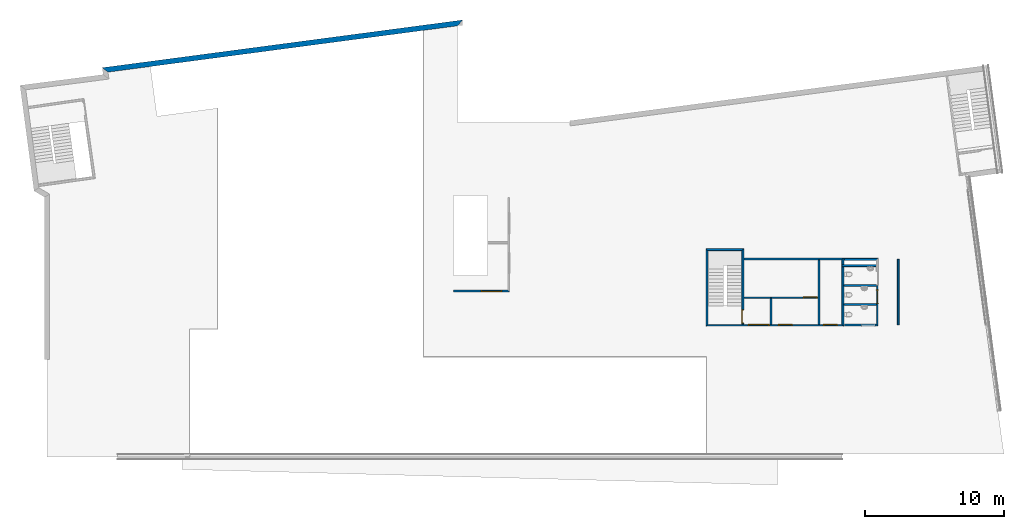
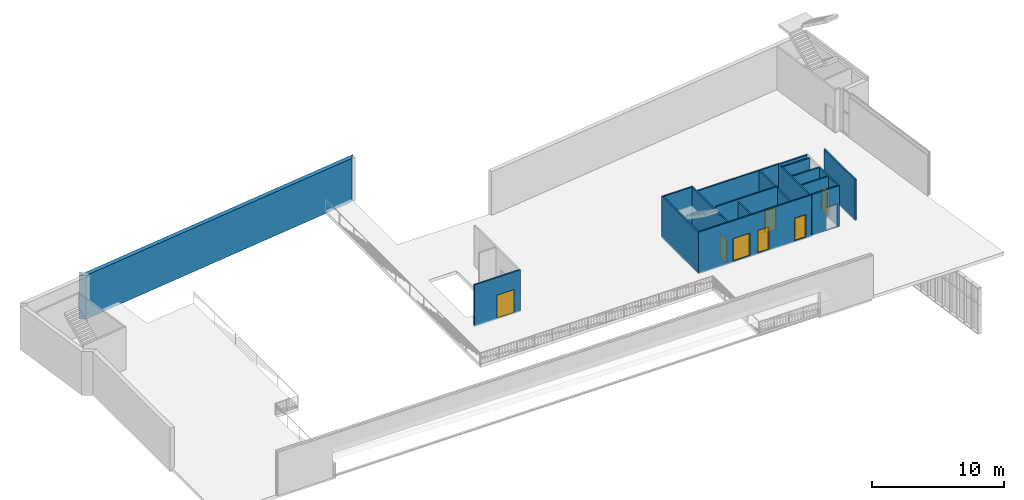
# One storey, part 8 of 17: 18 walls, 7 doors, 8 openings.
"""IFC2X3 building model written with IfcOpenShell, lengths in metres."""

from ifc_helpers import new_model, entity, si_unit, converted_unit, money_unit, direction, frame, origin_with_axes, origin_2d_with_axis, place, context, subcontext, project, spatial, polyline, rectangle, outline, extrude, faceted_brep, source, transform, mapped, material, material_list, layer, layer_set, layer_usage, type_object, element, fill, save


model = new_model("IFC2X3")

# Units and contexts
model_context = context("Model", 3, precision=1e-05, world=origin_with_axes(), true_north=direction((0.0, 1.0)))
body_context = subcontext(model_context, "Body", "Model", "MODEL_VIEW")
ifc_project = project(units=[si_unit("LENGTHUNIT", "METRE"), si_unit("AREAUNIT", "SQUARE_METRE"), si_unit("VOLUMEUNIT", "CUBIC_METRE"), converted_unit("PLANEANGLEUNIT", "DEGREE", entity("IfcPlaneAngleMeasure", 0.0174532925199), si_unit("PLANEANGLEUNIT", "RADIAN"), dimensions=[0, 0, 0, 0, 0, 0, 0]), si_unit("SOLIDANGLEUNIT", "STERADIAN"), money_unit("EUR"), converted_unit("TIMEUNIT", "Year", entity("IfcTimeMeasure", 31556926.0), si_unit("TIMEUNIT", "SECOND"), dimensions=[0, 0, 0, 0, 0, 0, 0]), si_unit("MASSUNIT", "GRAM"), si_unit("THERMODYNAMICTEMPERATUREUNIT", "DEGREE_CELSIUS"), si_unit("LUMINOUSINTENSITYUNIT", "LUMEN")], contexts=[model_context])

# Site, building, storey
site_placement = place(None, origin_with_axes())
site = spatial("IfcSite", under=ifc_project, at=site_placement, Name="Undefined", CompositionType="ELEMENT")
building_placement = place(site_placement, origin_with_axes())
building = spatial("IfcBuilding", under=site, at=building_placement, Name="Undefined", CompositionType="ELEMENT")
storey_placement = place(building_placement, frame((0.0, 0.0, 9.425), z_axis=(0.0, 0.0, 1.0), x_axis=(1.0, 0.0, 0.0)))
storey = spatial("IfcBuildingStorey", under=building, at=storey_placement, Name="Mezzannine", CompositionType="ELEMENT", Elevation=9.425)

# Wall
ifc_material_1 = material(Name="Finition int - Enduit pl\x89tre")
ifc_layer_1 = layer(ifc_material_1, 0.015, ventilated="UNKNOWN")
ifc_material_2 = material(Name="Struct. - Parpaing b\x8eton")
ifc_layer_2 = layer(ifc_material_2, 0.1, ventilated="UNKNOWN")
ifc_layer_3 = layer(ifc_material_1, 0.015, ventilated="UNKNOWN")
ifc_layer_set_1 = layer_set([ifc_layer_1, ifc_layer_2, ifc_layer_3], Name="0.0-Cloison: parpaing + pl\x89tre 2 faces copie")
ifc_layer_usage_1 = layer_usage(ifc_layer_set_1, "AXIS2", "NEGATIVE", 0.0)
wall_type_1 = type_object("IfcWallType", Name="0.0-Cloison: parpaing + pl\x89tre 2 faces copie 130", PredefinedType="NOTDEFINED")
wall_1_placement = place(storey_placement, frame((56.835, 9.3149999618, -0.12), z_axis=(0.0, 0.0, 1.0), x_axis=(0.0, 1.0, 0.0)))
element("IfcWallStandardCase", 1, at=wall_1_placement, inside=storey, type_object=wall_type_1, material=ifc_layer_usage_1, Name="Wall_Int_07", context=body_context, shape_type="SweptSolid", body=[
    extrude(outline(polyline([(-0.13, -0.13), (4.7500000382, -0.13), (4.6200000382, 0.0), (0.0, 0.0), (-0.13, -0.13)])), origin_with_axes(), (0.0, 0.0, 1.0), 3.845),
])

# Wall, openings, doors
ifc_layer_usage_2 = layer_usage(ifc_layer_set_1, "AXIS2", "POSITIVE", 0.0)
wall_2_placement = place(storey_placement, frame((56.835, 9.3149999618, -0.12), z_axis=(0.0, 0.0, 1.0), x_axis=(-1.0, 0.0, 0.0)))
wall_2 = element("IfcWallStandardCase", 2, at=wall_2_placement, inside=storey, type_object=wall_type_1, material=ifc_layer_usage_2, Name="Wall_Int_02", context=body_context, shape_type="SweptSolid", body=[
    extrude(outline(polyline([(0.0, 0.0), (9.62, 0.0), (9.75, 0.13), (-0.13, 0.13), (0.0, 0.0)])), origin_with_axes(), (0.0, 0.0, 1.0), 3.845),
])
opening_1_placement = place(wall_2_placement, frame((5.97548555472, 0.0, 0.12), z_axis=(0.0, 0.0, 1.0), x_axis=(1.0, 0.0, 0.0)))
opening_1 = element("IfcOpeningElement", 3, at=opening_1_placement, cuts=wall_2, Name="DOOR", context=body_context, shape_type="SweptSolid", body=[
    extrude(rectangle(XDim=1.5, YDim=2.1, at=origin_2d_with_axis()), frame((0.0, -0.13, 1.05), z_axis=(0.0, 1.0, 0.0), x_axis=(1.0, 0.0, 0.0)), (0.0, 0.0, 1.0), 0.13),
    extrude(rectangle(XDim=1.5, YDim=2.1, at=origin_2d_with_axis()), frame((0.0, 0.13, 1.05), z_axis=(0.0, -1.0, 0.0), x_axis=(1.0, 0.0, 0.0)), (0.0, 0.0, 1.0), 0.13),
])
opening_2_placement = place(wall_2_placement, frame((4.05960224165, 0.0, 0.12), z_axis=(0.0, 0.0, 1.0), x_axis=(1.0, 0.0, 0.0)))
opening_2 = element("IfcOpeningElement", 4, at=opening_2_placement, cuts=wall_2, Name="DOOR_1000", context=body_context, shape_type="SweptSolid", body=[
    extrude(rectangle(XDim=1.0, YDim=2.1, at=origin_2d_with_axis()), frame((0.0, -0.13, 1.05), z_axis=(0.0, 1.0, 0.0), x_axis=(1.0, 0.0, 0.0)), (0.0, 0.0, 1.0), 0.13),
    extrude(rectangle(XDim=1.0, YDim=2.1, at=origin_2d_with_axis()), frame((0.0, 0.13, 1.05), z_axis=(0.0, -1.0, 0.0), x_axis=(1.0, 0.0, 0.0)), (0.0, 0.0, 1.0), 0.13),
])
opening_3_placement = place(wall_2_placement, frame((0.834117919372, 0.0, 0.12), z_axis=(0.0, 0.0, 1.0), x_axis=(1.0, 0.0, 0.0)))
opening_3 = element("IfcOpeningElement", 5, at=opening_3_placement, cuts=wall_2, Name="DOOR_1000", context=body_context, shape_type="SweptSolid", body=[
    extrude(rectangle(XDim=1.0, YDim=2.1, at=origin_2d_with_axis()), frame((0.0, -0.13, 1.05), z_axis=(0.0, 1.0, 0.0), x_axis=(1.0, 0.0, 0.0)), (0.0, 0.0, 1.0), 0.13),
    extrude(rectangle(XDim=1.0, YDim=2.1, at=origin_2d_with_axis()), frame((0.0, 0.13, 1.05), z_axis=(0.0, -1.0, 0.0), x_axis=(1.0, 0.0, 0.0)), (0.0, 0.0, 1.0), 0.13),
])
ifc_material_3 = material(Name="Background Fill-International")
ifc_material_4 = material(Name="Air Space")
ifc_material_list_1 = material_list([ifc_material_3, ifc_material_4])
door_style_1 = type_object("IfcDoorStyle", Name="IFC Porte - Simple battant", ConstructionType="NOTDEFINED", OperationType="SINGLE_SWING_LEFT", ParameterTakesPrecedence=True, Sizeable=False)
shared_shape_1 = source(origin_with_axes(), body_context, "Body", "Brep", [
    faceted_brep([(0.5, 0.0, 0.0), (0.5, -0.1, 0.0), (0.45, -0.1, 0.0), (0.45, 0.0, 0.0), (0.5, 0.0, 2.1), (0.5, -0.1, 2.1), (-0.5, -0.1, 2.1), (-0.5, -0.1, 0.0), (-0.45, -0.1, 0.0), (-0.45, -0.1, 2.05), (0.45, -0.1, 2.05), (0.45, 0.0, 2.05), (-0.45, 0.0, 2.05), (-0.45, 0.0, 0.0), (-0.5, 0.0, 0.0), (-0.5, 0.0, 2.1)], [[[0, 1, 2, 3]], [[4, 5, 1, 0]], [[1, 5, 6, 7, 8, 9, 10, 2]], [[3, 2, 10, 11]], [[0, 3, 11, 12, 13, 14, 15, 4]], [[15, 6, 5, 4]], [[14, 7, 6, 15]], [[13, 8, 7, 14]], [[12, 9, 8, 13]], [[11, 10, 9, 12]]]),
    faceted_brep([(-0.45, 0.0, 0.0), (-0.45, -0.04, 0.0), (-0.45, -0.04, 2.05), (-0.45, 0.0, 2.05), (0.45, 0.0, 0.0), (0.45, -0.04, 0.0), (0.45, -0.04, 2.05), (0.45, 0.0, 2.05)], [[[0, 1, 2, 3]], [[4, 5, 1, 0]], [[1, 5, 6, 2]], [[3, 2, 6, 7]], [[0, 3, 7, 4]], [[7, 6, 5, 4]]]),
])
door_1_placement = place(opening_2_placement, frame((0.5, 0.0, 0.0), z_axis=(0.0, 0.0, 1.0), x_axis=(-1.0, 0.0, 0.0)))
door_1 = element("IfcDoor", 6, at=door_1_placement, inside=storey, type_object=door_style_1, material=ifc_material_list_1, Name="DOOR_1000", ObjectType="DOOR", OverallHeight=2.1, OverallWidth=1.0, context=body_context, shape_type="MappedRepresentation", body=[
    mapped(shared_shape_1, transform((0.5, 0.0, 0.0))),
])
fill(opening_2, door_1)
door_2_placement = place(opening_3_placement, frame((0.5, 0.0, 0.0), z_axis=(0.0, 0.0, 1.0), x_axis=(-1.0, 0.0, 0.0)))
door_2 = element("IfcDoor", 7, at=door_2_placement, inside=storey, type_object=door_style_1, material=ifc_material_list_1, Name="DOOR_1000", ObjectType="DOOR", OverallHeight=2.1, OverallWidth=1.0, context=body_context, shape_type="MappedRepresentation", body=[
    mapped(shared_shape_1, transform((0.5, 0.0, 0.0))),
])
fill(opening_3, door_2)
door_style_2 = type_object("IfcDoorStyle", Name="IFC Porte double - Simple battant", ConstructionType="ALUMINIUM", OperationType="DOUBLE_DOOR_SINGLE_SWING", ParameterTakesPrecedence=True, Sizeable=False)
shared_shape_2 = source(origin_with_axes(), body_context, "Body", "Brep", [
    faceted_brep([(0.75, 0.0, 0.0), (0.75, -0.1, 0.0), (0.7, -0.1, 0.0), (0.7, 0.0, 0.0), (0.75, 0.0, 2.1), (0.75, -0.1, 2.1), (-0.75, -0.1, 2.1), (-0.75, -0.1, 0.0), (-0.7, -0.1, 0.0), (-0.7, -0.1, 2.05), (0.7, -0.1, 2.05), (0.7, 0.0, 2.05), (-0.7, 0.0, 2.05), (-0.7, 0.0, 0.0), (-0.75, 0.0, 0.0), (-0.75, 0.0, 2.1)], [[[0, 1, 2, 3]], [[4, 5, 1, 0]], [[1, 5, 6, 7, 8, 9, 10, 2]], [[3, 2, 10, 11]], [[0, 3, 11, 12, 13, 14, 15, 4]], [[15, 6, 5, 4]], [[14, 7, 6, 15]], [[13, 8, 7, 14]], [[12, 9, 8, 13]], [[11, 10, 9, 12]]]),
    faceted_brep([(-0.7, 0.0, 0.0), (-0.7, -0.04, 0.0), (-0.7, -0.04, 2.05), (-0.7, 0.0, 2.05), (0.42, 0.0, 0.0), (0.42, -0.04, 0.0), (0.42, -0.04, 2.05), (0.42, 0.0, 2.05)], [[[0, 1, 2, 3]], [[4, 5, 1, 0]], [[1, 5, 6, 2]], [[3, 2, 6, 7]], [[0, 3, 7, 4]], [[7, 6, 5, 4]]]),
    faceted_brep([(0.7, 0.0, 0.0), (0.7, -0.04, 0.0), (0.42, -0.04, 0.0), (0.42, 0.0, 0.0), (0.7, 0.0, 2.05), (0.7, -0.04, 2.05), (0.42, -0.04, 2.05), (0.42, 0.0, 2.05)], [[[0, 1, 2, 3]], [[4, 5, 1, 0]], [[1, 5, 6, 2]], [[3, 2, 6, 7]], [[0, 3, 7, 4]], [[7, 6, 5, 4]]]),
])
door_3_placement = place(opening_1_placement, frame((0.75, 0.0, 0.0), z_axis=(0.0, 0.0, 1.0), x_axis=(-1.0, 0.0, 0.0)))
door_3 = element("IfcDoor", 8, at=door_3_placement, inside=storey, type_object=door_style_2, material=ifc_material_list_1, Name="DOOR", ObjectType="DOOR", OverallHeight=2.1, OverallWidth=1.5, context=body_context, shape_type="MappedRepresentation", body=[
    mapped(shared_shape_2, transform((0.75, 0.0, 0.0))),
])
fill(opening_1, door_3)

# Wall, opening, door
ifc_layer_usage_3 = layer_usage(ifc_layer_set_1, "AXIS2", "NEGATIVE", 0.0)
wall_3_placement = place(storey_placement, frame((32.9987356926, 11.6449226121, -0.12), z_axis=(0.0, 0.0, 1.0), x_axis=(-1.0, 0.0, 0.0)))
wall_3 = element("IfcWallStandardCase", 9, at=wall_3_placement, inside=storey, type_object=wall_type_1, material=ifc_layer_usage_3, Name="Wall_Int_02", ObjectType="WALL", context=body_context, shape_type="SweptSolid", body=[
    extrude(outline(polyline([(0.13, -0.13), (4.02497206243, -0.13), (4.02497206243, 0.0), (0.0, 0.0), (0.13, -0.13)])), origin_with_axes(), (0.0, 0.0, 1.0), 3.845),
])
opening_4_placement = place(wall_3_placement, frame((1.30127249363, 0.0, 0.12), z_axis=(0.0, 0.0, 1.0), x_axis=(1.0, 0.0, 0.0)))
opening_4 = element("IfcOpeningElement", 10, at=opening_4_placement, cuts=wall_3, Name="DOOR", context=body_context, shape_type="SweptSolid", body=[
    extrude(rectangle(XDim=1.5, YDim=2.1, at=origin_2d_with_axis()), frame((0.0, 0.13, 1.05), z_axis=(0.0, -1.0, 0.0), x_axis=(1.0, 0.0, 0.0)), (0.0, 0.0, 1.0), 0.13),
    extrude(rectangle(XDim=1.5, YDim=2.1, at=origin_2d_with_axis()), frame((0.0, -0.13, 1.05), z_axis=(0.0, 1.0, 0.0), x_axis=(1.0, 0.0, 0.0)), (0.0, 0.0, 1.0), 0.13),
])
door_style_3 = type_object("IfcDoorStyle", Name="IFC Porte double - Simple battant", ConstructionType="ALUMINIUM", OperationType="DOUBLE_DOOR_SINGLE_SWING", ParameterTakesPrecedence=True, Sizeable=False)
shared_shape_3 = source(origin_with_axes(), body_context, "Body", "Brep", [
    faceted_brep([(-0.75, 0.0, 0.0), (-0.7, 0.0, 0.0), (-0.7, -0.1, 0.0), (-0.75, -0.1, 0.0), (-0.75, 0.0, 2.1), (0.75, 0.0, 2.1), (0.75, 0.0, 0.0), (0.7, 0.0, 0.0), (0.7, 0.0, 2.05), (-0.7, 0.0, 2.05), (-0.7, -0.1, 2.05), (0.7, -0.1, 2.05), (0.7, -0.1, 0.0), (0.75, -0.1, 0.0), (0.75, -0.1, 2.1), (-0.75, -0.1, 2.1)], [[[0, 1, 2, 3]], [[0, 4, 5, 6, 7, 8, 9, 1]], [[1, 9, 10, 2]], [[3, 2, 10, 11, 12, 13, 14, 15]], [[4, 0, 3, 15]], [[5, 4, 15, 14]], [[6, 5, 14, 13]], [[7, 6, 13, 12]], [[8, 7, 12, 11]], [[9, 8, 11, 10]]]),
    faceted_brep([(0.7, 0.0, 0.0), (0.7, 0.0, 2.05), (0.7, -0.04, 2.05), (0.7, -0.04, 0.0), (0.0, 0.0, 0.0), (0.0, 0.0, 2.05), (0.0, -0.04, 2.05), (0.0, -0.04, 0.0)], [[[0, 1, 2, 3]], [[0, 4, 5, 1]], [[1, 5, 6, 2]], [[3, 2, 6, 7]], [[4, 0, 3, 7]], [[5, 4, 7, 6]]]),
    faceted_brep([(-0.7, 0.0, 0.0), (0.0, 0.0, 0.0), (0.0, -0.04, 0.0), (-0.7, -0.04, 0.0), (-0.7, 0.0, 2.05), (0.0, 0.0, 2.05), (0.0, -0.04, 2.05), (-0.7, -0.04, 2.05)], [[[0, 1, 2, 3]], [[0, 4, 5, 1]], [[1, 5, 6, 2]], [[3, 2, 6, 7]], [[4, 0, 3, 7]], [[5, 4, 7, 6]]]),
])
door_4_placement = place(opening_4_placement, frame((-0.75, 0.0, 0.0), z_axis=(0.0, 0.0, 1.0), x_axis=(1.0, 0.0, 0.0)))
door_4 = element("IfcDoor", 11, at=door_4_placement, inside=storey, type_object=door_style_3, material=ifc_material_list_1, Name="DOOR", ObjectType="DOOR", OverallHeight=2.1, OverallWidth=1.5, context=body_context, shape_type="MappedRepresentation", body=[
    mapped(shared_shape_3, transform((0.75, 0.0, 0.0))),
])
fill(opening_4, door_4)

# Walls
ifc_layer_usage_4 = layer_usage(ifc_layer_set_1, "AXIS2", "POSITIVE", -0.05)
wall_4_placement = place(storey_placement, frame((59.375, 12.115, -0.0600000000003), z_axis=(0.0, 0.0, 1.0), x_axis=(-1.0, 0.0, 0.0)))
element("IfcWallStandardCase", 12, at=wall_4_placement, inside=storey, type_object=wall_type_1, material=ifc_layer_usage_4, Name="Wall_Int_07", context=body_context, shape_type="SweptSolid", body=[
    extrude(outline(polyline([(0.08, -0.05), (2.41, -0.05), (2.41, 0.08), (0.08, 0.08), (0.08, -0.05)])), origin_with_axes(), (0.0, 0.0, 1.0), 3.785),
])
ifc_layer_usage_5 = layer_usage(ifc_layer_set_1, "AXIS2", "NEGATIVE", 0.05)
wall_5_placement = place(storey_placement, frame((59.375, 13.51, -0.0600000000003), z_axis=(0.0, 0.0, 1.0), x_axis=(-1.0, 0.0, 0.0)))
element("IfcWallStandardCase", 13, at=wall_5_placement, inside=storey, type_object=wall_type_1, material=ifc_layer_usage_5, Name="Wall_Int_07", context=body_context, shape_type="SweptSolid", body=[
    extrude(outline(polyline([(0.08, -0.08), (2.525, -0.08), (2.525, 0.05), (0.08, 0.05), (0.08, -0.08)])), origin_with_axes(), (0.0, 0.0, 1.0), 3.785),
])
ifc_layer_usage_6 = layer_usage(ifc_layer_set_1, "AXIS2", "POSITIVE", -0.05)
wall_6_placement = place(storey_placement, frame((59.375, 10.7494683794, -0.0600000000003), z_axis=(0.0, 0.0, 1.0), x_axis=(-1.0, 0.0, 0.0)))
element("IfcWallStandardCase", 14, at=wall_6_placement, inside=storey, type_object=wall_type_1, material=ifc_layer_usage_6, Name="Wall_Int_07", context=body_context, shape_type="SweptSolid", body=[
    extrude(outline(polyline([(0.08, -0.05), (2.41, -0.05), (2.41, 0.08), (0.08, 0.08), (0.08, -0.05)])), origin_with_axes(), (0.0, 0.0, 1.0), 3.785),
])
ifc_layer_usage_7 = layer_usage(ifc_layer_set_1, "AXIS2", "POSITIVE", -0.05)
wall_7_placement = place(storey_placement, frame((59.375, 13.99, -0.0600000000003), z_axis=(0.0, 0.0, 1.0), x_axis=(-1.0, 0.0, 0.0)))
element("IfcWallStandardCase", 15, at=wall_7_placement, inside=storey, type_object=wall_type_1, material=ifc_layer_usage_7, Name="Wall_Int_05", context=body_context, shape_type="SweptSolid", body=[
    extrude(outline(polyline([(-0.05, -0.05), (2.375, -0.05), (2.375, 0.08), (0.08, 0.08), (-0.05, -0.05)])), origin_with_axes(), (0.0, 0.0, 1.0), 3.785),
])
ifc_layer_usage_8 = layer_usage(ifc_layer_set_1, "AXIS2", "POSITIVE", 0.0)
wall_8_placement = place(storey_placement, frame((55.2463765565, 9.3149999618, -0.12), z_axis=(0.0, 0.0, 1.0), x_axis=(0.0, 1.0, 0.0)))
element("IfcWallStandardCase", 16, at=wall_8_placement, inside=storey, type_object=wall_type_1, material=ifc_layer_usage_8, Name="Wall_Int", context=body_context, shape_type="SweptSolid", body=[
    extrude(outline(polyline([(0.0, 0.0), (4.6200000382, 0.0), (4.6200000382, 0.13), (0.0, 0.13), (0.0, 0.0)])), origin_with_axes(), (0.0, 0.0, 1.0), 3.845),
])
ifc_layer_usage_9 = layer_usage(ifc_layer_set_1, "AXIS2", "POSITIVE", 0.0)
wall_9_placement = place(storey_placement, frame((51.6756910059, 11.175, -0.12), z_axis=(0.0, 0.0, 1.0), x_axis=(0.0, -1.0, 0.0)))
element("IfcWallStandardCase", 17, at=wall_9_placement, inside=storey, type_object=wall_type_1, material=ifc_layer_usage_9, Name="Wall_Int", context=body_context, shape_type="SweptSolid", body=[
    extrude(outline(polyline([(0.0, 0.0), (1.8600000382, 0.0), (1.8600000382, 0.13), (0.0, 0.13), (0.0, 0.0)])), origin_with_axes(), (0.0, 0.0, 1.0), 3.845),
])
ifc_layer_usage_10 = layer_usage(ifc_layer_set_1, "AXIS2", "POSITIVE", -0.05)
wall_10_placement = place(storey_placement, frame((60.8842827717, 9.275, -0.0600000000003), z_axis=(0.0, 0.0, 1.0), x_axis=(0.0, 1.0, 0.0)))
element("IfcWallStandardCase", 18, at=wall_10_placement, inside=storey, type_object=wall_type_1, material=ifc_layer_usage_10, Name="Wall_Int", context=body_context, shape_type="SweptSolid", body=[
    extrude(outline(polyline([(0.0, -0.05), (4.70000000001, -0.05), (4.70000000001, 0.08), (0.0, 0.08), (0.0, -0.05)])), origin_with_axes(), (0.0, 0.0, 1.0), 3.785),
])

# Wall, opening, door
ifc_layer_usage_11 = layer_usage(ifc_layer_set_1, "AXIS2", "POSITIVE", 0.0)
wall_11_placement = place(storey_placement, frame((49.6599999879, 11.1599999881, -0.12), z_axis=(0.0, 0.0, 1.0), x_axis=(1.0, 0.0, 0.0)))
wall_11 = element("IfcWallStandardCase", 19, at=wall_11_placement, inside=storey, type_object=wall_type_1, material=ifc_layer_usage_11, Name="Wall_Int_02", context=body_context, shape_type="SweptSolid", body=[
    extrude(outline(polyline([(0.13, 0.0), (5.45637656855, 0.0), (5.45637656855, 0.13), (0.13, 0.13), (0.13, 0.0)])), origin_with_axes(), (0.0, 0.0, 1.0), 4.07),
])
opening_5_placement = place(wall_11_placement, frame((4.89427702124, 0.0, 0.12), z_axis=(0.0, 0.0, 1.0), x_axis=(1.0, 0.0, 0.0)))
opening_5 = element("IfcOpeningElement", 20, at=opening_5_placement, cuts=wall_11, Name="DOOR_1000", context=body_context, shape_type="SweptSolid", body=[
    extrude(rectangle(XDim=1.0, YDim=2.1, at=origin_2d_with_axis()), frame((0.0, 0.26, 1.05), z_axis=(0.0, -1.0, 0.0), x_axis=(1.0, 0.0, 0.0)), (0.0, 0.0, 1.0), 0.13),
    extrude(rectangle(XDim=1.0, YDim=2.1, at=origin_2d_with_axis()), frame((0.0, 0.0, 1.05), z_axis=(0.0, 1.0, 0.0), x_axis=(1.0, 0.0, 0.0)), (0.0, 0.0, 1.0), 0.13),
])
door_style_4 = type_object("IfcDoorStyle", Name="IFC Porte - Simple battant", ConstructionType="NOTDEFINED", OperationType="SINGLE_SWING_LEFT", ParameterTakesPrecedence=True, Sizeable=False)
door_5_placement = place(opening_5_placement, frame((-0.5, 0.0, 0.0), z_axis=(0.0, 0.0, 1.0), x_axis=(1.0, 0.0, 0.0)))
door_5 = element("IfcDoor", 21, at=door_5_placement, inside=storey, type_object=door_style_4, material=ifc_material_list_1, Name="DOOR_1000", ObjectType="DOOR", OverallHeight=2.1, OverallWidth=1.0, context=body_context, shape_type="MappedRepresentation", body=[
    mapped(shared_shape_1, transform((0.5, 0.13, 0.0))),
])
fill(opening_5, door_5)

# Walls
ifc_layer_usage_12 = layer_usage(ifc_layer_set_1, "AXIS2", "POSITIVE", 0.0)
wall_12_placement = place(storey_placement, frame((47.085, 14.61, -0.12), z_axis=(0.0, 0.0, 1.0), x_axis=(0.99999999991, -1.34169674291e-05, 0.0)))
element("IfcWallStandardCase", 22, at=wall_12_placement, inside=storey, type_object=wall_type_1, material=ifc_layer_usage_12, Name="Wall_Int_02", context=body_context, shape_type="SweptSolid", body=[
    extrude(outline(polyline([(0.130000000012, 0.0), (2.57499998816, 0.0), (2.70499824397, 0.13), (-1.74420576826e-06, 0.13), (0.130000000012, 0.0)])), origin_with_axes(), (0.0, 0.0, 1.0), 3.845),
])
ifc_layer_usage_13 = layer_usage(ifc_layer_set_1, "AXIS2", "POSITIVE", 0.0)
wall_13_placement = place(storey_placement, frame((47.085, 14.61, -0.12), z_axis=(0.0, 0.0, 1.0), x_axis=(0.0, -1.0, 0.0)))
element("IfcWallStandardCase", 23, at=wall_13_placement, inside=storey, type_object=wall_type_1, material=ifc_layer_usage_13, Name="Wall_Int_02", context=body_context, shape_type="SweptSolid", body=[
    extrude(outline(polyline([(-0.130000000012, 0.0), (5.4250000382, 0.0), (5.2950000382, 0.13), (1.74420576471e-06, 0.13), (-0.130000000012, 0.0)])), origin_with_axes(), (0.0, 0.0, 1.0), 3.845),
])

# Wall, opening, door
ifc_layer_usage_14 = layer_usage(ifc_layer_set_1, "AXIS2", "POSITIVE", 0.0)
wall_14_placement = place(storey_placement, frame((49.6599999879, 14.6099652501, -0.12), z_axis=(0.0, 0.0, 1.0), x_axis=(0.0, -1.0, 0.0)))
wall_14 = element("IfcWallStandardCase", 24, at=wall_14_placement, inside=storey, type_object=wall_type_1, material=ifc_layer_usage_14, Name="Wall_Int_02", context=body_context, shape_type="SweptSolid", body=[
    extrude(outline(polyline([(-2.01254671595e-07, 0.0), (5.29496528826, 0.0), (5.29496528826, 0.13), (-0.129998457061, 0.13), (-2.01254671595e-07, 0.0)])), origin_with_axes(), (0.0, 0.0, 1.0), 3.845),
])
opening_6_placement = place(wall_14_placement, frame((4.73496525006, 0.0, 0.0), z_axis=(0.0, 0.0, 1.0), x_axis=(1.0, 0.0, 0.0)))
opening_6 = element("IfcOpeningElement", 25, at=opening_6_placement, cuts=wall_14, Name="DOOR_1000", context=body_context, shape_type="SweptSolid", body=[
    extrude(rectangle(XDim=1.0, YDim=2.1, at=origin_2d_with_axis()), frame((0.0, -0.13, 1.05), z_axis=(0.0, 1.0, 0.0), x_axis=(1.0, 0.0, 0.0)), (0.0, 0.0, 1.0), 0.13),
    extrude(rectangle(XDim=1.0, YDim=2.1, at=origin_2d_with_axis()), frame((0.0, 0.13, 1.05), z_axis=(0.0, -1.0, 0.0), x_axis=(1.0, 0.0, 0.0)), (0.0, 0.0, 1.0), 0.13),
])
door_6_placement = place(opening_6_placement, frame((0.5, 0.0, 0.0), z_axis=(0.0, 0.0, 1.0), x_axis=(-1.0, 0.0, 0.0)))
door_6 = element("IfcDoor", 26, at=door_6_placement, inside=storey, type_object=door_style_1, material=ifc_material_list_1, Name="DOOR_1000", ObjectType="DOOR", OverallHeight=2.1, OverallWidth=1.0, context=body_context, shape_type="MappedRepresentation", body=[
    mapped(shared_shape_1, transform((0.5, 0.0, 0.0))),
])
fill(opening_6, door_6)

# Wall
ifc_layer_usage_15 = layer_usage(ifc_layer_set_1, "AXIS2", "POSITIVE", 0.0)
wall_15_placement = place(storey_placement, frame((49.6599999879, 13.935, -0.12), z_axis=(0.0, 0.0, 1.0), x_axis=(1.0, 0.0, 0.0)))
element("IfcWallStandardCase", 27, at=wall_15_placement, inside=storey, type_object=wall_type_1, material=ifc_layer_usage_15, Name="Wall_Int_02", context=body_context, shape_type="SweptSolid", body=[
    extrude(outline(polyline([(0.13, 0.0), (7.17500001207, 0.0), (7.30500001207, 0.13), (0.13, 0.13), (0.13, 0.0)])), origin_with_axes(), (0.0, 0.0, 1.0), 3.85184909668),
])

# Wall, opening, door
ifc_layer_usage_16 = layer_usage(ifc_layer_set_1, "AXIS2", "POSITIVE", -0.05)
wall_16_placement = place(storey_placement, frame((59.375, 9.245, -0.0600000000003), z_axis=(0.0, 0.0, 1.0), x_axis=(0.0, 1.0, 0.0)))
wall_16 = element("IfcWallStandardCase", 28, at=wall_16_placement, inside=storey, type_object=wall_type_1, material=ifc_layer_usage_16, Name="Wall_Int_05", context=body_context, shape_type="SweptSolid", body=[
    extrude(outline(polyline([(-0.05, -0.05), (2.86999999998, -0.05), (2.86999999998, 0.08), (0.08, 0.08), (-0.05, -0.05)])), origin_with_axes(), (0.0, 0.0, 1.0), 3.785),
])
opening_7_placement = place(wall_16_placement, frame((2.05446837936, 0.0, 0.06), z_axis=(0.0, 0.0, 1.0), x_axis=(1.0, 0.0, 0.0)))
opening_7 = element("IfcOpeningElement", 29, at=opening_7_placement, cuts=wall_16, Name="DOOR_1000", context=body_context, shape_type="SweptSolid", body=[
    extrude(rectangle(XDim=1.0, YDim=2.1, at=origin_2d_with_axis()), frame((0.0, 0.13, 1.05), z_axis=(0.0, -1.0, 0.0), x_axis=(-1.0, 0.0, 0.0)), (0.0, 0.0, 1.0), 0.39),
    extrude(rectangle(XDim=1.02, YDim=2.11, at=origin_2d_with_axis()), frame((0.0, 0.21, 1.055), z_axis=(0.0, -1.0, 0.0), x_axis=(-1.0, 0.0, 0.0)), (0.0, 0.0, 1.0), 0.13),
    extrude(rectangle(XDim=1.02, YDim=2.11, at=origin_2d_with_axis()), frame((0.0, -0.18, 1.055), z_axis=(0.0, 1.0, 0.0), x_axis=(-1.0, 0.0, 0.0)), (0.0, 0.0, 1.0), 0.13),
])
ifc_material_5 = material(Name="Empty Fill")
ifc_material_6 = material(Name="Foreground")
ifc_material_7 = material(Name="Rigid Insulation")
ifc_material_8 = material(Name="Background")
ifc_material_list_2 = material_list([ifc_material_5, ifc_material_4, ifc_material_6, ifc_material_5, ifc_material_3, ifc_material_5, ifc_material_5, ifc_material_7, ifc_material_3, ifc_material_5, ifc_material_5, ifc_material_5, ifc_material_4, ifc_material_8, ifc_material_8, ifc_material_3])
door_style_5 = type_object("IfcDoorStyle", Name="Porte 18", ConstructionType="NOTDEFINED", OperationType="SINGLE_SWING_RIGHT", ParameterTakesPrecedence=False, Sizeable=False)
shared_shape_4 = source(origin_with_axes(), body_context, "Body", "Brep", [
    faceted_brep([(-0.51, -0.149, 0.0), (-0.51, -0.13, 0.0), (-0.46, -0.13, 0.0), (-0.46, -0.149, 0.0), (-0.51, -0.149, 2.11), (-0.51, -0.13, 2.11), (-0.46, -0.13, 2.06), (-0.46, -0.149, 2.06)], [[[0, 1, 2, 3]], [[4, 5, 1, 0]], [[1, 5, 6, 2]], [[3, 2, 6, 7]], [[0, 3, 7, 4]], [[7, 6, 5, 4]]]),
    faceted_brep([(0.51, -0.149, 2.11), (0.51, -0.13, 2.11), (0.46, -0.13, 2.06), (0.46, -0.149, 2.06), (0.51, -0.149, 0.0), (0.51, -0.13, 0.0), (0.46, -0.13, 0.0), (0.46, -0.149, 0.0)], [[[0, 1, 2, 3]], [[4, 5, 1, 0]], [[1, 5, 6, 2]], [[3, 2, 6, 7]], [[0, 3, 7, 4]], [[7, 6, 5, 4]]]),
    faceted_brep([(-0.51, -0.149, 2.11), (-0.51, -0.13, 2.11), (-0.46, -0.13, 2.06), (-0.46, -0.149, 2.06), (0.51, -0.149, 2.11), (0.51, -0.13, 2.11), (0.46, -0.13, 2.06), (0.46, -0.149, 2.06)], [[[0, 1, 2, 3]], [[4, 5, 1, 0]], [[1, 5, 6, 2]], [[3, 2, 6, 7]], [[0, 3, 7, 4]], [[7, 6, 5, 4]]]),
    faceted_brep([(-0.51, 0.019, 0.0), (-0.46, 0.019, 0.0), (-0.46, 0.0, 0.0), (-0.51, 0.0, 0.0), (-0.51, 0.019, 2.11), (-0.46, 0.019, 2.06), (-0.46, 0.0, 2.06), (-0.51, 0.0, 2.11)], [[[0, 1, 2, 3]], [[0, 4, 5, 1]], [[1, 5, 6, 2]], [[3, 2, 6, 7]], [[4, 0, 3, 7]], [[5, 4, 7, 6]]]),
    faceted_brep([(0.51, 0.019, 2.11), (0.46, 0.019, 2.06), (0.46, 0.0, 2.06), (0.51, 0.0, 2.11), (0.51, 0.019, 0.0), (0.46, 0.019, 0.0), (0.46, 0.0, 0.0), (0.51, 0.0, 0.0)], [[[0, 1, 2, 3]], [[0, 4, 5, 1]], [[1, 5, 6, 2]], [[3, 2, 6, 7]], [[4, 0, 3, 7]], [[5, 4, 7, 6]]]),
    faceted_brep([(-0.51, 0.019, 2.11), (-0.46, 0.019, 2.06), (-0.46, 0.0, 2.06), (-0.51, 0.0, 2.11), (0.51, 0.019, 2.11), (0.46, 0.019, 2.06), (0.46, 0.0, 2.06), (0.51, 0.0, 2.11)], [[[0, 1, 2, 3]], [[0, 4, 5, 1]], [[1, 5, 6, 2]], [[3, 2, 6, 7]], [[4, 0, 3, 7]], [[5, 4, 7, 6]]]),
    faceted_brep([(-0.46, -0.04, 0.0), (-0.46, -0.04, 2.06), (-0.46, -0.13, 2.06), (-0.46, -0.13, 0.0), (-0.472, -0.04, 2.06), (-0.472, -0.04, 0.0), (-0.472, 0.0, 2.06), (-0.5, 0.0, 2.06), (-0.5, -0.13, 2.06), (-0.5, -0.13, 0.0), (-0.5, 0.0, 0.0), (-0.472, 0.0, 0.0)], [[[0, 1, 2, 3]], [[4, 1, 0, 5]], [[4, 6, 7, 8, 2, 1]], [[8, 9, 3, 2]], [[5, 0, 3, 9, 10, 11]], [[6, 4, 5, 11]], [[6, 11, 10, 7]], [[8, 7, 10, 9]]]),
    faceted_brep([(0.472, -0.04, 2.06), (0.46, -0.04, 2.06), (0.46, -0.13, 2.06), (0.5, -0.13, 2.06), (0.5, 0.0, 2.06), (0.472, 0.0, 2.06), (0.472, -0.04, 0.0), (0.46, -0.04, 0.0), (0.46, -0.13, 0.0), (0.5, -0.13, 0.0), (0.5, 0.0, 0.0), (0.472, 0.0, 0.0)], [[[0, 1, 2, 3, 4, 5]], [[1, 0, 6, 7]], [[1, 7, 8, 2]], [[8, 9, 3, 2]], [[9, 10, 4, 3]], [[11, 5, 4, 10]], [[0, 5, 11, 6]], [[6, 11, 10, 9, 8, 7]]]),
    faceted_brep([(-0.472, 0.0, 2.072), (-0.472, 0.0, 2.06), (-0.5, 0.0, 2.06), (-0.5, 0.0, 2.1), (0.5, 0.0, 2.1), (0.5, 0.0, 2.06), (0.472, 0.0, 2.06), (0.472, 0.0, 2.072), (-0.472, -0.04, 2.072), (-0.472, -0.04, 2.06), (-0.46, -0.04, 2.06), (-0.46, -0.13, 2.06), (-0.5, -0.13, 2.06), (-0.5, -0.13, 2.1), (0.5, -0.13, 2.1), (0.5, -0.13, 2.06), (0.472, -0.04, 2.06), (0.46, -0.13, 2.06), (0.46, -0.04, 2.06), (0.472, -0.04, 2.072)], [[[0, 1, 2, 3, 4, 5, 6, 7]], [[1, 0, 8, 9]], [[9, 10, 11, 12, 2, 1]], [[13, 3, 2, 12]], [[14, 4, 3, 13]], [[15, 5, 4, 14]], [[16, 6, 5, 15, 17, 18]], [[7, 6, 16, 19]], [[0, 7, 19, 8]], [[16, 18, 10, 9, 8, 19]], [[10, 18, 17, 11]], [[14, 13, 12, 11, 17, 15]]]),
    faceted_brep([(0.472, 0.0, 0.0), (0.472, -0.04, 0.0), (-0.472, -0.04, 0.0), (-0.472, 0.0, 0.0), (0.472, 0.0, 2.072), (0.472, -0.04, 2.072), (-0.472, -0.04, 2.072), (-0.472, 0.0, 2.072)], [[[0, 1, 2, 3]], [[4, 5, 1, 0]], [[1, 5, 6, 2]], [[3, 2, 6, 7]], [[0, 3, 7, 4]], [[7, 6, 5, 4]]]),
])
door_7_placement = place(opening_7_placement, frame((0.5, 0.0, 0.0), z_axis=(0.0, 0.0, 1.0), x_axis=(-1.0, 0.0, 0.0)))
door_7 = element("IfcDoor", 30, at=door_7_placement, inside=storey, type_object=door_style_5, material=ifc_material_list_2, Name="DOOR_1000", ObjectType="DOOR", OverallHeight=2.1, OverallWidth=1.0, context=body_context, shape_type="MappedRepresentation", body=[
    mapped(shared_shape_4, transform((0.5, 0.05, 0.0))),
])
fill(opening_7, door_7)

# Wall, opening
ifc_layer_usage_17 = layer_usage(ifc_layer_set_1, "AXIS2", "POSITIVE", -0.05)
wall_17_placement = place(storey_placement, frame((57.015, 9.245, -0.0600000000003), z_axis=(0.0, 0.0, 1.0), x_axis=(1.0, 0.0, 0.0)))
wall_17 = element("IfcWallStandardCase", 31, at=wall_17_placement, inside=storey, type_object=wall_type_1, material=ifc_layer_usage_17, Name="Wall_Int_05", context=body_context, shape_type="SweptSolid", body=[
    extrude(outline(polyline([(0.0, -0.05), (2.41, -0.05), (2.28, 0.08), (0.0, 0.08), (0.0, -0.05)])), origin_with_axes(), (0.0, 0.0, 1.0), 3.785),
])
opening_8_placement = place(wall_17_placement, frame((1.70478199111, 0.0, 0.0600000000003), z_axis=(0.0, 0.0, 1.0), x_axis=(1.0, 0.0, 0.0)))
element("IfcOpeningElement", 32, at=opening_8_placement, cuts=wall_17, Name="DOOR_1000", context=body_context, shape_type="SweptSolid", body=[
    extrude(rectangle(XDim=1.0, YDim=2.1, at=origin_2d_with_axis()), frame((0.0, 0.13, 1.05), z_axis=(0.0, 1.0, 0.0), x_axis=(1.0, 0.0, 0.0)), (0.0, 0.0, -1.0), 0.39),
    extrude(rectangle(XDim=1.02, YDim=2.11, at=origin_2d_with_axis()), frame((0.0, 0.21, 1.055), z_axis=(0.0, 1.0, 0.0), x_axis=(1.0, 0.0, 0.0)), (0.0, 0.0, -1.0), 0.13),
    extrude(rectangle(XDim=1.02, YDim=2.11, at=origin_2d_with_axis()), frame((0.0, -0.18, 1.055), z_axis=(0.0, -1.0, 0.0), x_axis=(1.0, 0.0, 0.0)), (0.0, 0.0, -1.0), 0.13),
])

# Wall
ifc_material_9 = material(Name="Finition ext - Cr\x8epis")
ifc_layer_4 = layer(ifc_material_9, 0.015, ventilated="UNKNOWN")
ifc_material_10 = material(Name="Isolation - Fibres de bois")
ifc_layer_5 = layer(ifc_material_10, 0.16, ventilated="UNKNOWN")
ifc_material_11 = material(Name="Struct. - B.A. banch\x8e")
ifc_layer_6 = layer(ifc_material_11, 0.18, ventilated="UNKNOWN")
ifc_layer_7 = layer(ifc_material_1, 0.015, ventilated="UNKNOWN")
ifc_layer_set_2 = layer_set([ifc_layer_4, ifc_layer_5, ifc_layer_6, ifc_layer_7], Name="1.2-Mur ext: rev\x8et ext + isol ext + ma\x8donnerie + enduit")
ifc_layer_usage_18 = layer_usage(ifc_layer_set_2, "AXIS2", "POSITIVE", 0.0)
wall_type_2 = type_object("IfcWallType", Name="1.2-Mur ext: rev\x8et ext + isol ext + ma\x8donnerie + enduit 370", PredefinedType="NOTDEFINED")
wall_18_placement = place(storey_placement, frame((29.6202598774, 31.1461094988, -0.3), z_axis=(0.0, 0.0, 1.0), x_axis=(-0.991347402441, -0.131264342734, 0.0)))
element("IfcWallStandardCase", 33, at=wall_18_placement, inside=storey, type_object=wall_type_2, material=ifc_layer_usage_18, Name="WallEx02", ObjectType="WALL", context=body_context, shape_type="SweptSolid", body=[
    extrude(outline(polyline([(0.0, 0.0), (26.0743044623, 0.0), (25.7039336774, 0.37), (0.417235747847, 0.37), (0.0, 0.0)])), origin_with_axes(), (0.0, 0.0, 1.0), 4.025),
])

save(model, "model.ifc")
